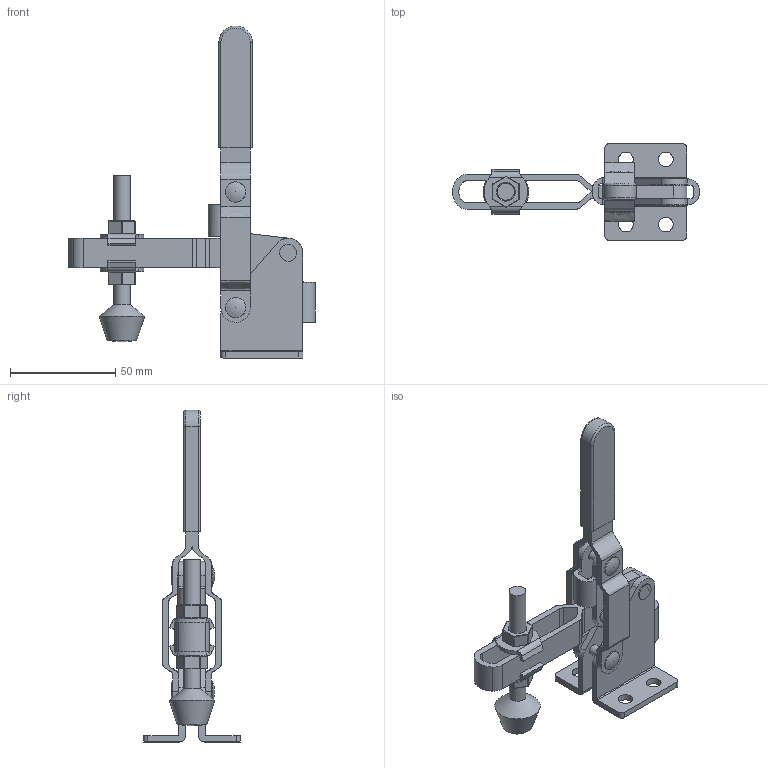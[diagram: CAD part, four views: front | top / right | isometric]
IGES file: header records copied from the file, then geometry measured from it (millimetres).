
Global section: file name: DR_018-11FS; native system: Autodesk Inventor 2015; preprocessor: unknown; author: Administrator; date: 20180302.134748; units: millimetre
Bounding box: 117.49 x 46 x 157.99 mm (x, y, z)
Volume: 52598.5 mm3; surface area: 36735 mm2
Topology: 10 solids, 10 shells, 327 faces, 830 edges, 528 vertices
Faces by surface type: bspline 327
